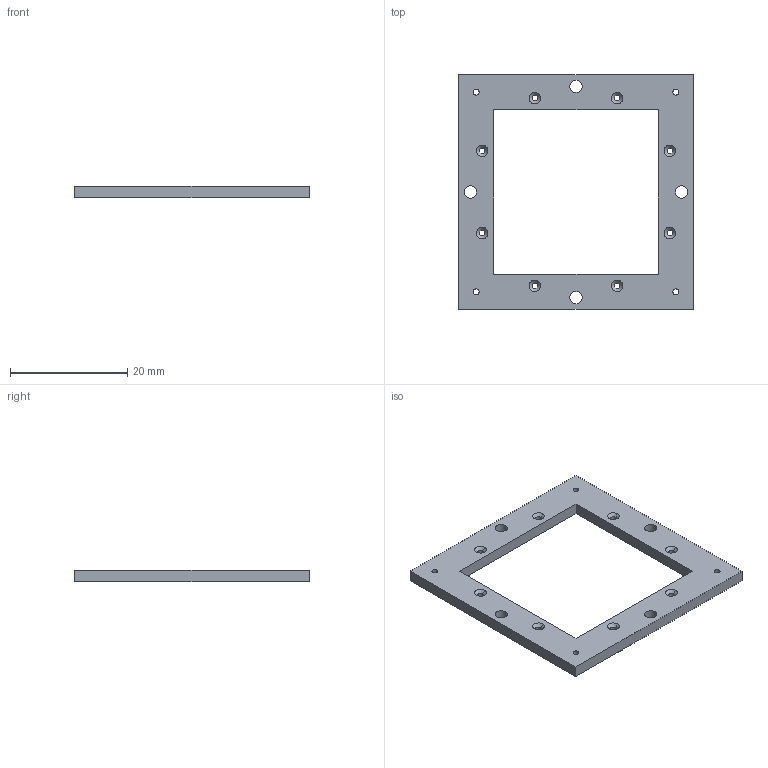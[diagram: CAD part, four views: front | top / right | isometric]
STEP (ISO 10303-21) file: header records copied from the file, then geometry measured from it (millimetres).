
FILE_DESCRIPTION (( 'STEP AP214' ), '1' );
FILE_NAME ('G_2_pla.STEP', '2016-02-28T08:53:02', ( '' ), ( '' ), 'SwSTEP 2.0', 'SolidWorks 2012', '' );
FILE_SCHEMA (( 'AUTOMOTIVE_DESIGN' ));
Length unit declared in the file: millimetre
Products named in the file (1): G_2_pla
Bounding box: 40 x 40 x 2 mm (x, y, z)
Volume: 1578.7 mm3; surface area: 2257.2 mm2
Topology: 1 solids, 1 shells, 125 faces, 324 edges, 208 vertices
Faces by surface type: plane 37, cylinder 32, bspline 32, cone 24
Entity records: 5816 total; most frequent: CARTESIAN_POINT 2802, ORIENTED_EDGE 648, DIRECTION 536, EDGE_CURVE 324, VERTEX_POINT 208, AXIS2_PLACEMENT_3D 182, LINE 172, VECTOR 172
